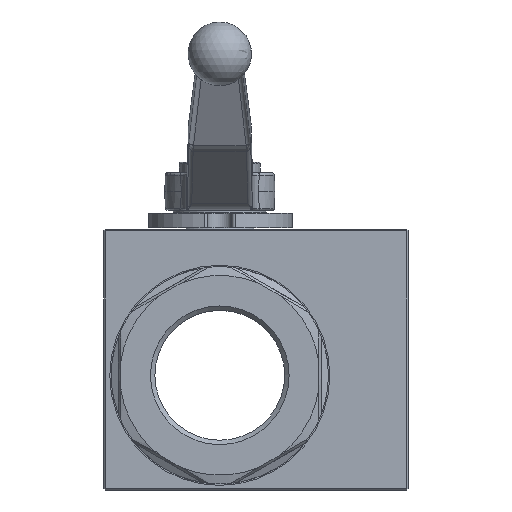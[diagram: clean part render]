
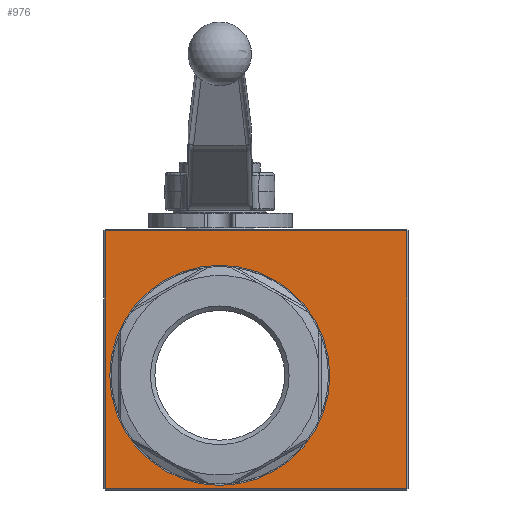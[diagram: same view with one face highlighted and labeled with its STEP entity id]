
A CAD part, front view. The second image highlights one B-rep face of the part: STEP entity #976.
In plain terms, the highlighted planar face has unit normal (0, -1, 0).
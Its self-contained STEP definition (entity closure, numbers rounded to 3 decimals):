
#976 = ADVANCED_FACE( '', ( #1976, #1977 ), #1978, .F. );
#1976 = FACE_OUTER_BOUND( '', #3695, .T. );
#1977 = FACE_BOUND( '', #3696, .T. );
#1978 = PLANE( '', #3697 );
#3695 = EDGE_LOOP( '', ( #6118, #6119, #6120, #6121 ) );
#3696 = EDGE_LOOP( '', ( #6122 ) );
#3697 = AXIS2_PLACEMENT_3D( '', #6123, #6124, #6125 );
#6118 = ORIENTED_EDGE( '', *, *, #7029, .T. );
#6119 = ORIENTED_EDGE( '', *, *, #7892, .T. );
#6120 = ORIENTED_EDGE( '', *, *, #7598, .T. );
#6121 = ORIENTED_EDGE( '', *, *, #7893, .T. );
#6122 = ORIENTED_EDGE( '', *, *, #7894, .T. );
#6123 = CARTESIAN_POINT( '', ( -40., -43.5, 50.4 ) );
#6124 = DIRECTION( '', ( 0., 1., 0. ) );
#6125 = DIRECTION( '', ( 0., 0., 1. ) );
#7029 = EDGE_CURVE( '', #8164, #8161, #8165, .T. );
#7598 = EDGE_CURVE( '', #9024, #8843, #9081, .T. );
#7892 = EDGE_CURVE( '', #8161, #9024, #9472, .T. );
#7893 = EDGE_CURVE( '', #8843, #8164, #9473, .T. );
#7894 = EDGE_CURVE( '', #9474, #9474, #9475, .T. );
#8161 = VERTEX_POINT( '', #9913 );
#8164 = VERTEX_POINT( '', #9917 );
#8165 = LINE( '', #9918, #9919 );
#8843 = VERTEX_POINT( '', #11465 );
#9024 = VERTEX_POINT( '', #12207 );
#9081 = LINE( '', #12294, #12295 );
#9472 = LINE( '', #13229, #13230 );
#9473 = LINE( '', #13231, #13232 );
#9474 = VERTEX_POINT( '', #13233 );
#9475 = CIRCLE( '', #13234, 38. );
#9913 = CARTESIAN_POINT( '', ( -39.5, -43.5, -39.1 ) );
#9917 = CARTESIAN_POINT( '', ( -39.5, -43.5, 49.9 ) );
#9918 = CARTESIAN_POINT( '', ( -39.5, -43.5, 50.4 ) );
#9919 = VECTOR( '', #13616, 1000. );
#11465 = CARTESIAN_POINT( '', ( 64.5, -43.5, 49.9 ) );
#12207 = CARTESIAN_POINT( '', ( 64.5, -43.5, -39.1 ) );
#12294 = CARTESIAN_POINT( '', ( 64.5, -43.5, 50.4 ) );
#12295 = VECTOR( '', #14304, 1000. );
#13229 = CARTESIAN_POINT( '', ( -40., -43.5, -39.1 ) );
#13230 = VECTOR( '', #14619, 1000. );
#13231 = CARTESIAN_POINT( '', ( -40., -43.5, 49.9 ) );
#13232 = VECTOR( '', #14620, 1000. );
#13233 = CARTESIAN_POINT( '', ( 38., -43.5, 0. ) );
#13234 = AXIS2_PLACEMENT_3D( '', #14621, #14622, #14623 );
#13616 = DIRECTION( '', ( 0., 0., -1. ) );
#14304 = DIRECTION( '', ( 0., 0., 1. ) );
#14619 = DIRECTION( '', ( 1., 0., 0. ) );
#14620 = DIRECTION( '', ( -1., 0., 0. ) );
#14621 = CARTESIAN_POINT( '', ( 0., -43.5, 0. ) );
#14622 = DIRECTION( '', ( 0., 1., 0. ) );
#14623 = DIRECTION( '', ( 1., 0., 0. ) );
